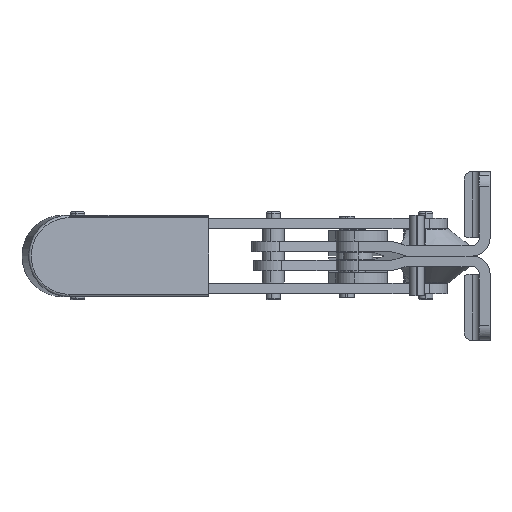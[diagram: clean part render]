
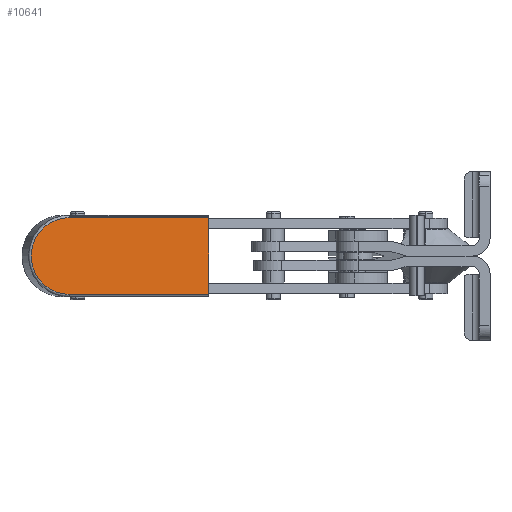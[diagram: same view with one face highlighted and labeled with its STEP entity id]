
A CAD part, left-side view. The second image highlights one B-rep face of the part: STEP entity #10641.
In plain terms, the highlighted planar face has unit normal (-0.989, -0.15, 0) as drawn and (0, 0, 1) by its records, which use the part's own axes.
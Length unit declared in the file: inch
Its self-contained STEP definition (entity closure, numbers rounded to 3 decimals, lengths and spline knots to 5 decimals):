
#10051=CARTESIAN_POINT('',(-0.03,0.0,0.362));
#10052=VERTEX_POINT('',#10051);
#10060=CARTESIAN_POINT('',(-0.03,1.2035,0.362));
#10061=VERTEX_POINT('',#10060);
#10062=CARTESIAN_POINT('',(-0.03,0.0,0.362));
#10063=DIRECTION('',(0.0,1.0,0.0));
#10064=VECTOR('',#10063,1.2035);
#10065=LINE('',#10062,#10064);
#10066=EDGE_CURVE('',#10052,#10061,#10065,.T.);
#10093=CARTESIAN_POINT('',(0.623,1.2035,0.362));
#10094=VERTEX_POINT('',#10093);
#10102=CARTESIAN_POINT('',(0.623,0.0,0.362));
#10103=VERTEX_POINT('',#10102);
#10104=CARTESIAN_POINT('',(0.623,1.2035,0.362));
#10105=DIRECTION('',(0.0,-1.0,0.0));
#10106=VECTOR('',#10105,1.2035);
#10107=LINE('',#10104,#10106);
#10108=EDGE_CURVE('',#10094,#10103,#10107,.T.);
#10361=CARTESIAN_POINT('',(0.2965,1.2035,0.362));
#10362=DIRECTION('',(0.0,0.0,-1.0));
#10363=DIRECTION('',(0.0,1.0,0.0));
#10364=AXIS2_PLACEMENT_3D('',#10361,#10362,#10363);
#10365=CIRCLE('',#10364,0.3265);
#10366=EDGE_CURVE('',#10061,#10094,#10365,.T.);
#10461=CARTESIAN_POINT('',(-0.03,0.0,0.362));
#10462=DIRECTION('',(1.0,0.0,0.0));
#10463=VECTOR('',#10462,0.653);
#10464=LINE('',#10461,#10463);
#10465=EDGE_CURVE('',#10103,#10052,#10464,.F.);
#10630=CARTESIAN_POINT('',(0.2965,0.69388,0.362));
#10631=DIRECTION('',(0.0,0.0,1.0));
#10632=DIRECTION('',(1.0,0.0,0.0));
#10633=AXIS2_PLACEMENT_3D('',#10630,#10631,#10632);
#10634=PLANE('',#10633);
#10635=ORIENTED_EDGE('',*,*,#10066,.F.);
#10636=ORIENTED_EDGE('',*,*,#10465,.F.);
#10637=ORIENTED_EDGE('',*,*,#10108,.F.);
#10638=ORIENTED_EDGE('',*,*,#10366,.F.);
#10639=EDGE_LOOP('',(#10635,#10636,#10637,#10638));
#10640=FACE_OUTER_BOUND('',#10639,.T.);
#10641=ADVANCED_FACE('',(#10640),#10634,.T.);
